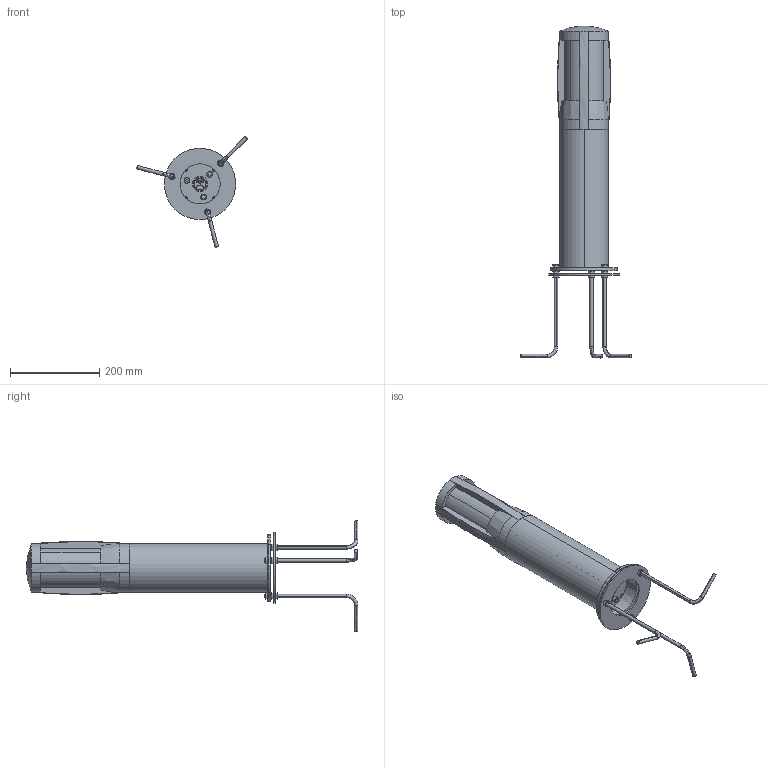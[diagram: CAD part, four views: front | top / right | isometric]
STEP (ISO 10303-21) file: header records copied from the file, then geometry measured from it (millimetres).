
FILE_DESCRIPTION((''),'2;1');
FILE_NAME('D9AR-550_ASM','2024-09-03T',('C028'),(''),'CREO PARAMETRIC BY PTC INC, 2014190','CREO PARAMETRIC BY PTC INC, 2014190','');
FILE_SCHEMA(('CONFIG_CONTROL_DESIGN'));
Products named in the file (37): 9AK-07GUDINGZUO_23_1; 3BU_13DIANYUANHE_4; 9AB-04DUDINGZUOFANGSHUIQUAN_4; 9AB-03DUDINGZUOHOUGAI_4; M4X12MM_3_1_1_2_2; PAD_1_135_2; FANGUANGSAI-1_1_135_2; FANGSHUISAI_1_135_2; PG9_ASM_1_ASM_135_ASM_2_ASM; PG9_ASM_2_ASM; 9AR-06TOUGUANGZHAODIZUO_12; 9AR-03_7; M3X501_1_6_9; 9AR-04_4; 9AD_8; 9AR-05TOUGUANZHAOSHANGGAI_4; 9AR-02_8; 2ISPINGDIAN_3; M3_20_5_2; 3DJMOZU_6; 4013-5; 9AD_ASM_19_ASM; 9AR-01SHANGGAI_9; 9AD-07_300_1_35; LI_BAN; 9AB_FA_LAN_PAN_56; 12-ZHUANGJIEGGAI_3; GUANZI_1; DICHA14A_ASM_1_ASM; LI_BAN-24; M8-20; 9EE_A11_ASM_583_ASM; 9AB-11_4__ANY_; M8LUOMU_3__ANY_; 9AB-10_5__ANY_; 9ABDIZUO_AF5_ASM_333_ASM_1_ANY__ASM; D9AR-550_ASM
Assembly tree (62 placements, depth 5):
  D9AR-550_ASM
    9AD_ASM_19_ASM
      9AK-07GUDINGZUO_23_1
      3BU_13DIANYUANHE_4
      9AB-04DUDINGZUOFANGSHUIQUAN_4  x2
      9AB-03DUDINGZUOHOUGAI_4
      M4X12MM_3_1_1_2_2  x4
      PG9_ASM_2_ASM
        PG9_ASM_1_ASM_135_ASM_2_ASM
          PAD_1_135_2
          FANGUANGSAI-1_1_135_2
          FANGSHUISAI_1_135_2
      9AR-06TOUGUANGZHAODIZUO_12
      9AR-03_7
      M3X501_1_6_9  x2
      9AR-04_4
      9AD_8  x6
      9AR-05TOUGUANZHAOSHANGGAI_4
      9AR-02_8
      2ISPINGDIAN_3  x2
      M3_20_5_2
      3DJMOZU_6
      4013-5  x3
    9AR-01SHANGGAI_9
    9EE_A11_ASM_583_ASM
      9AD-07_300_1_35
      LI_BAN
      9AB_FA_LAN_PAN_56
      DICHA14A_ASM_1_ASM
        12-ZHUANGJIEGGAI_3  x2
        GUANZI_1
      LI_BAN-24
      M8-20  x3
    9ABDIZUO_AF5_ASM_333_ASM_1_ANY__ASM
      9AB-11_4__ANY_  x3
      M8LUOMU_3__ANY_  x9
      9AB-10_5__ANY_
Bounding box: 248.96 x 745.35 x 248.96 mm (x, y, z)
Volume: 1758272.9 mm3; surface area: 970144.5 mm2
Topology: 56 solids, 56 shells, 2621 faces, 7246 edges, 4800 vertices
Faces by surface type: plane 1346, cylinder 661, cone 292, torus 172, bspline 136, sphere 14
Entity records: 83407 total; most frequent: CARTESIAN_POINT 30537, ORIENTED_EDGE 11238, DIRECTION 10541, EDGE_CURVE 5619, VERTEX_POINT 3732, AXIS2_PLACEMENT_3D 3687, VECTOR 3167, LINE 3167
